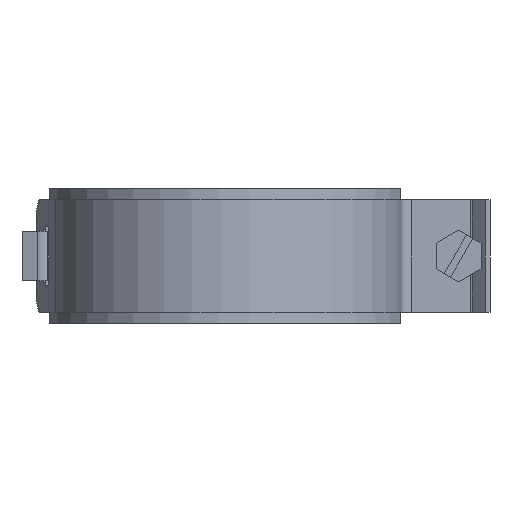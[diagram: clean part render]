
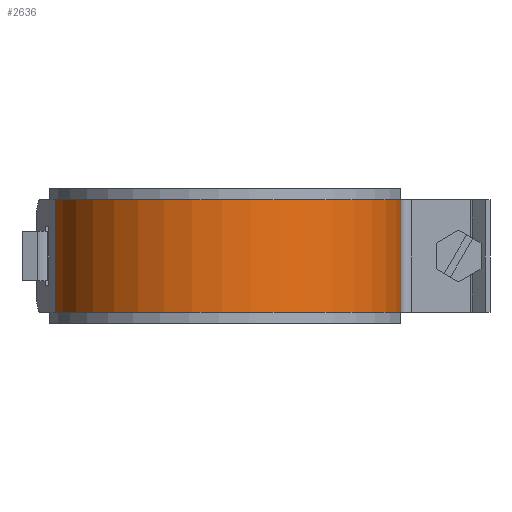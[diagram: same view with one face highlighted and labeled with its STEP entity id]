
A CAD part, front view. The second image highlights one B-rep face of the part: STEP entity #2636.
In plain terms, the highlighted cylindrical face has radius 39 mm (diameter 78 mm), a partial arc.
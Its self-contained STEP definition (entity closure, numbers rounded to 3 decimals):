
#89=CYLINDRICAL_SURFACE($,#2872,39.);
#197=FACE_OUTER_BOUND($,#338,.T.);
#338=EDGE_LOOP($,(#2131,#2132,#2133,#2134,#2135,#2136));
#422=CIRCLE($,#2755,39.);
#424=CIRCLE($,#2758,39.);
#443=CIRCLE($,#2799,39.);
#468=CIRCLE($,#2856,39.);
#666=LINE($,#4259,#917);
#691=LINE($,#4308,#942);
#917=VECTOR($,#3485,25.);
#942=VECTOR($,#3530,25.);
#1069=VERTEX_POINT($,#3907);
#1070=VERTEX_POINT($,#3909);
#1073=VERTEX_POINT($,#3917);
#1074=VERTEX_POINT($,#3918);
#1115=VERTEX_POINT($,#4046);
#1177=VERTEX_POINT($,#4231);
#1343=EDGE_CURVE($,#1069,#1070,#422,.T.);
#1347=EDGE_CURVE($,#1073,#1074,#424,.T.);
#1412=EDGE_CURVE($,#1070,#1115,#443,.T.);
#1497=EDGE_CURVE($,#1177,#1073,#468,.T.);
#1510=EDGE_CURVE($,#1069,#1074,#666,.T.);
#1535=EDGE_CURVE($,#1115,#1177,#691,.T.);
#2131=ORIENTED_EDGE($,*,*,#1535,.F.);
#2132=ORIENTED_EDGE($,*,*,#1412,.F.);
#2133=ORIENTED_EDGE($,*,*,#1343,.F.);
#2134=ORIENTED_EDGE($,*,*,#1510,.T.);
#2135=ORIENTED_EDGE($,*,*,#1347,.F.);
#2136=ORIENTED_EDGE($,*,*,#1497,.F.);
#2636=ADVANCED_FACE($,(#197),#89,.T.);
#2755=AXIS2_PLACEMENT_3D($,#3910,#3156,#3157);
#2758=AXIS2_PLACEMENT_3D($,#3919,#3164,#3165);
#2799=AXIS2_PLACEMENT_3D($,#4047,#3292,#3293);
#2856=AXIS2_PLACEMENT_3D($,#4233,#3463,#3464);
#2872=AXIS2_PLACEMENT_3D($,#4309,#3531,#3532);
#3156=DIRECTION('center_axis',(0.,0.,1.));
#3157=DIRECTION('ref_axis',(0.98,0.199,0.));
#3164=DIRECTION('center_axis',(0.,0.,-1.));
#3165=DIRECTION('ref_axis',(0.98,0.199,0.));
#3292=DIRECTION('center_axis',(0.,0.,1.));
#3293=DIRECTION('ref_axis',(0.98,0.199,0.));
#3463=DIRECTION('center_axis',(0.,0.,-1.));
#3464=DIRECTION('ref_axis',(0.98,0.199,0.));
#3485=DIRECTION($,(0.,0.,-1.));
#3530=DIRECTION($,(0.,0.,-1.));
#3531=DIRECTION('center_axis',(0.,0.,1.));
#3532=DIRECTION('ref_axis',(0.98,0.199,0.));
#3907=CARTESIAN_POINT('',(-38.217,-7.775,12.5));
#3909=CARTESIAN_POINT('',(37.671,-10.094,12.5));
#3910=CARTESIAN_POINT('Origin',(0.,0.,12.5));
#3917=CARTESIAN_POINT('',(37.671,-10.094,-12.5));
#3918=CARTESIAN_POINT('',(-38.217,-7.775,-12.5));
#3919=CARTESIAN_POINT('Origin',(0.,0.,-12.5));
#4046=CARTESIAN_POINT('',(38.656,-5.169,12.5));
#4047=CARTESIAN_POINT('Origin',(0.,0.,12.5));
#4231=CARTESIAN_POINT('',(38.656,-5.169,-12.5));
#4233=CARTESIAN_POINT('Origin',(0.,0.,-12.5));
#4259=CARTESIAN_POINT($,(-38.217,-7.775,0.));
#4308=CARTESIAN_POINT($,(38.656,-5.169,0.));
#4309=CARTESIAN_POINT('Origin',(0.,0.,0.));
